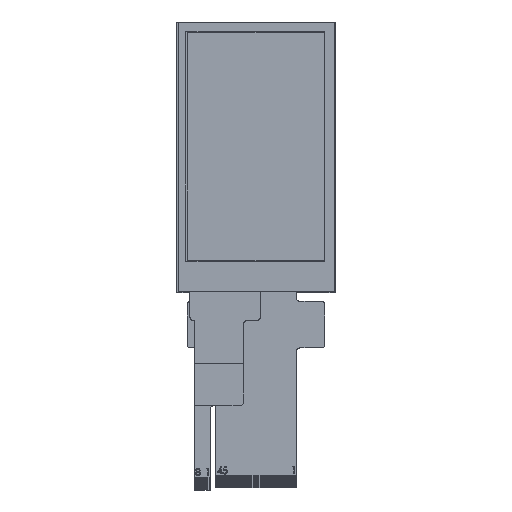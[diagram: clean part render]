
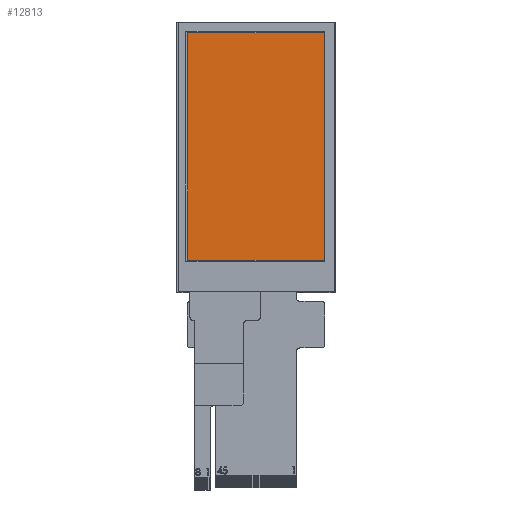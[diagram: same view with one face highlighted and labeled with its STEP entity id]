
A CAD part, top view. The second image highlights one B-rep face of the part: STEP entity #12813.
In plain terms, the highlighted planar face has unit normal (0, 0, 1).
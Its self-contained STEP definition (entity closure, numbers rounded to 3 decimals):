
#267 = VERTEX_POINT ( 'NONE', #3347 ) ;
#578 = LINE ( 'NONE', #4441, #4950 ) ;
#747 = DIRECTION ( 'NONE',  ( -1., 0., 0. ) ) ;
#1175 = VERTEX_POINT ( 'NONE', #7502 ) ;
#1776 = LINE ( 'NONE', #2892, #6413 ) ;
#1931 = VERTEX_POINT ( 'NONE', #2332 ) ;
#2332 = CARTESIAN_POINT ( 'NONE',  ( 3.08, -67.8, 4.3 ) ) ;
#2698 = AXIS2_PLACEMENT_3D ( 'NONE', #11322, #11768, #5713 ) ;
#2892 = CARTESIAN_POINT ( 'NONE',  ( 3.08, 0., 4.3 ) ) ;
#2958 = VERTEX_POINT ( 'NONE', #8599 ) ;
#3347 = CARTESIAN_POINT ( 'NONE',  ( 41.96, -67.8, 4.3 ) ) ;
#3634 = EDGE_CURVE ( 'NONE', #2958, #267, #578, .T. ) ;
#3638 = DIRECTION ( 'NONE',  ( 0., -1., 0. ) ) ;
#3840 = DIRECTION ( 'NONE',  ( 0., 1., 0. ) ) ;
#4126 = FACE_OUTER_BOUND ( 'NONE', #8400, .T. ) ;
#4441 = CARTESIAN_POINT ( 'NONE',  ( 41.96, 0., 4.3 ) ) ;
#4660 = LINE ( 'NONE', #5598, #6557 ) ;
#4720 = LINE ( 'NONE', #7726, #10389 ) ;
#4804 = EDGE_CURVE ( 'NONE', #1931, #1175, #1776, .T. ) ;
#4950 = VECTOR ( 'NONE', #3638, 1000. ) ;
#5598 = CARTESIAN_POINT ( 'NONE',  ( 0., -67.8, 4.3 ) ) ;
#5713 = DIRECTION ( 'NONE',  ( 1., 0., 0. ) ) ;
#6070 = ORIENTED_EDGE ( 'NONE', *, *, #3634, .F. ) ;
#6197 = PLANE ( 'NONE',  #2698 ) ;
#6413 = VECTOR ( 'NONE', #3840, 1000. ) ;
#6534 = ORIENTED_EDGE ( 'NONE', *, *, #8569, .F. ) ;
#6557 = VECTOR ( 'NONE', #747, 1000. ) ;
#7502 = CARTESIAN_POINT ( 'NONE',  ( 3.08, -3., 4.3 ) ) ;
#7726 = CARTESIAN_POINT ( 'NONE',  ( 0., -3., 4.3 ) ) ;
#8144 = ORIENTED_EDGE ( 'NONE', *, *, #4804, .F. ) ;
#8400 = EDGE_LOOP ( 'NONE', ( #8144, #13145, #6070, #6534 ) ) ;
#8569 = EDGE_CURVE ( 'NONE', #1175, #2958, #4720, .T. ) ;
#8599 = CARTESIAN_POINT ( 'NONE',  ( 41.96, -3., 4.3 ) ) ;
#8662 = DIRECTION ( 'NONE',  ( 1., 0., 0. ) ) ;
#10389 = VECTOR ( 'NONE', #8662, 1000. ) ;
#11322 = CARTESIAN_POINT ( 'NONE',  ( 0., 0., 4.3 ) ) ;
#11768 = DIRECTION ( 'NONE',  ( 0., 0., 1. ) ) ;
#12544 = EDGE_CURVE ( 'NONE', #267, #1931, #4660, .T. ) ;
#12813 = ADVANCED_FACE ( 'NONE', ( #4126 ), #6197, .T. ) ;
#13145 = ORIENTED_EDGE ( 'NONE', *, *, #12544, .F. ) ;
